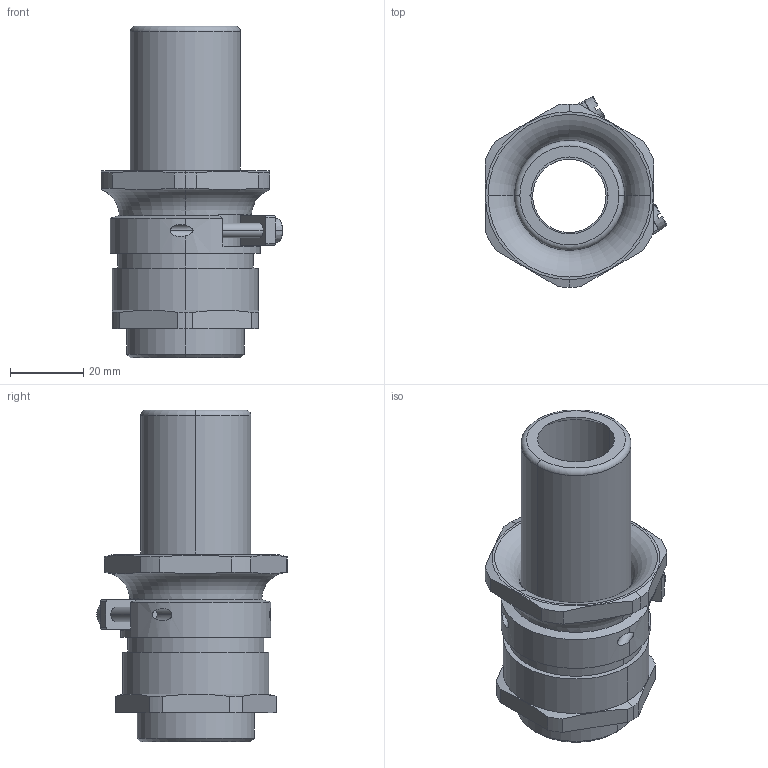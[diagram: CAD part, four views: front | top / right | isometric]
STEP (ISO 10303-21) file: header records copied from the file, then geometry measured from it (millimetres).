
FILE_DESCRIPTION (( 'STEP AP203' ), '1' );
FILE_NAME ('23.629M32K.STEP', '2006-08-02T05:52:46', ( ' ' ), ( '' ), 'SwSTEP 2.0', 'SolidWorks 2005278', '' );
FILE_SCHEMA (( 'CONFIG_CONTROL_DESIGN' ));
Length unit declared in the file: millimetre
Products named in the file (1): 23.629M32K
Bounding box: 49.61 x 52.05 x 90.5 mm (x, y, z)
Volume: 41216.6 mm3; surface area: 24283.5 mm2
Topology: 1 solids, 1 shells, 156 faces, 410 edges, 265 vertices
Faces by surface type: plane 84, cylinder 45, cone 15, torus 12
Entity records: 5180 total; most frequent: CARTESIAN_POINT 1190, DIRECTION 823, ORIENTED_EDGE 820, EDGE_CURVE 410, AXIS2_PLACEMENT_3D 298, VERTEX_POINT 265, VECTOR 227, LINE 227
